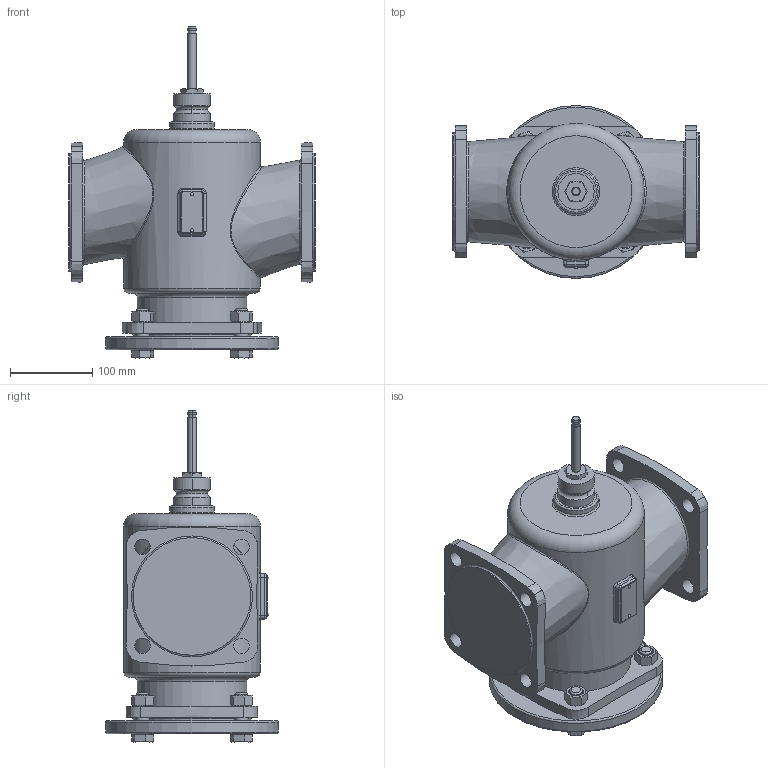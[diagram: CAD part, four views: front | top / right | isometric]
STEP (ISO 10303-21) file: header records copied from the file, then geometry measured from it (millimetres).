
FILE_DESCRIPTION(/* description */ ('Step214'),/* implementation_level */ '2;1');
FILE_NAME(/* name */ 'VVF22 DN100.stp',/* time_stamp */ '2015-11-10T12:48:01+01:00',/* author */ (''),/* organization */ ('Siemens'),/* preprocessor_version */ 'ST-DEVELOPER v15',/* originating_system */ 'SIEMENS PLM Software NX 8.5',/* authorisation */ 'for Duktil only');
FILE_SCHEMA (('AUTOMOTIVE_DESIGN { 1 0 10303 214 3 1 1 1 }'));
Length unit declared in the file: millimetre
Products named in the file (1): Volc19F47525lf7u
Bounding box: 300 x 210 x 403.55 mm (x, y, z)
Volume: 8333408.6 mm3; surface area: 393964.8 mm2
Topology: 1 solids, 2 shells, 329 faces, 759 edges, 473 vertices
Faces by surface type: plane 108, cone 92, cylinder 68, extrusion 31, torus 19, bspline 9, sphere 2
Full cylindrical faces by diameter (mm): 15.732 x8, 18 x8, 19 x8, 22.5 x4, 54 x1, 133 x1, 143 x3, 166 x1, 210 x1
Entity records: 14107 total; most frequent: CARTESIAN_POINT 6252, ORIENTED_EDGE 1328, DIRECTION 1265, EDGE_CURVE 664, AXIS2_PLACEMENT_3D 548, EDGE_LOOP 460, VERTEX_POINT 446, ADVANCED_FACE 329
